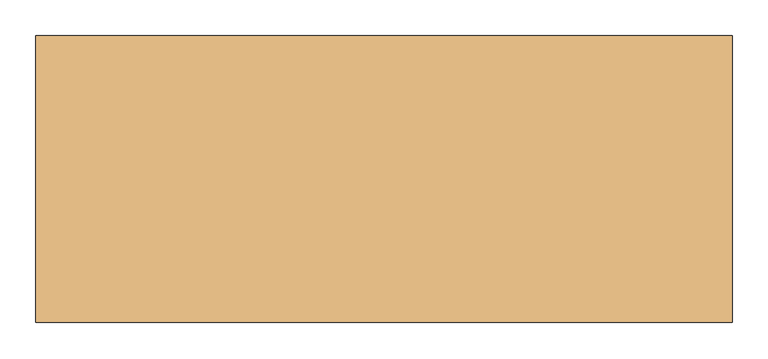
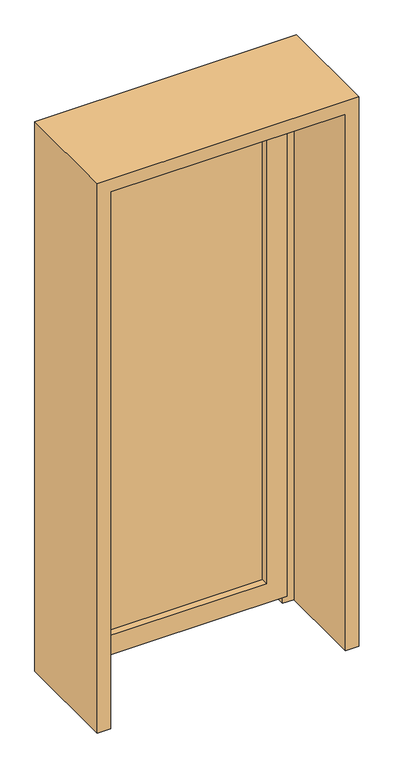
"""IFC4 building model written with IfcOpenShell, lengths in millimetres: door geometry, Внутренняя дверь 1-Навесная - 30970-2002 : ДПВ Г Б Л 2100-870 ГОСТ 30970-2002."""

from ifc_helpers import new_model, si_unit, frame, origin, place, context, project, spatial, polyline, outline, extrude, faceted_brep, source, transform, mapped, element, save


def door_53f747c6(model_context):
    return source(origin(), model_context, "Body", "SolidModel", [
        extrude(outline(polyline([(-338.0, 173.0), (338.0, 173.0), (338.0, 149.0), (-338.0, 149.0), (-338.0, 173.0)])), frame((0.0, 0.0, 97.0), z_axis=(0.0, 0.0, 1.0), x_axis=(1.0, 0.0, 0.0)), (0.0, 0.0, 1.0), 1906.0),
        faceted_brep([(-323.0, 149.0, 1988.0), (-323.0, 123.0, 1988.0), (-323.0, 123.0, 112.0), (-323.0, 149.0, 112.0), (-338.0, 173.0, 2003.0), (-338.0, 149.0, 2003.0), (-338.0, 149.0, 97.0), (-338.0, 173.0, 97.0), (-323.0, 193.0, 1988.0), (-323.0, 173.0, 1988.0), (-323.0, 173.0, 112.0), (-323.0, 193.0, 112.0), (-380.0, 137.0, 2045.0), (-380.0, 193.0, 2045.0), (-380.0, 193.0, 55.0), (-380.0, 137.0, 55.0), (-400.0, 123.0, 2065.0), (-400.0, 137.0, 2065.0), (-400.0, 137.0, 35.0), (-400.0, 123.0, 35.0), (323.0, 123.0, 112.0), (323.0, 149.0, 112.0), (338.0, 149.0, 97.0), (338.0, 173.0, 97.0), (323.0, 173.0, 112.0), (323.0, 193.0, 112.0), (380.0, 193.0, 55.0), (380.0, 137.0, 55.0), (400.0, 137.0, 35.0), (400.0, 123.0, 35.0), (323.0, 123.0, 1988.0), (323.0, 149.0, 1988.0), (338.0, 149.0, 2003.0), (338.0, 173.0, 2003.0), (323.0, 173.0, 1988.0), (323.0, 193.0, 1988.0), (380.0, 193.0, 2045.0), (380.0, 137.0, 2045.0), (400.0, 137.0, 2065.0), (400.0, 123.0, 2065.0)], [[[0, 1, 2, 3]], [[4, 5, 6, 7]], [[8, 9, 10, 11]], [[12, 13, 14, 15]], [[16, 17, 18, 19]], [[3, 2, 20, 21]], [[7, 6, 22, 23]], [[11, 10, 24, 25]], [[15, 14, 26, 27]], [[19, 18, 28, 29]], [[21, 20, 30, 31]], [[23, 22, 32, 33]], [[25, 24, 34, 35]], [[27, 26, 36, 37]], [[29, 28, 38, 39]], [[31, 30, 1, 0]], [[5, 32, 22, 6], [3, 21, 31, 0]], [[33, 32, 5, 4]], [[7, 23, 33, 4], [9, 34, 24, 10]], [[35, 34, 9, 8]], [[13, 36, 26, 14], [11, 25, 35, 8]], [[37, 36, 13, 12]], [[17, 38, 28, 18], [15, 27, 37, 12]], [[39, 38, 17, 16]], [[19, 29, 39, 16], [1, 30, 20, 2]]]),
        faceted_brep([(372.0, 209.0, 0.0), (435.0, 209.0, 0.0), (435.0, 139.0, 0.0), (392.0, 139.0, 0.0), (392.0, 195.0, 0.0), (372.0, 195.0, 0.0), (372.0, 209.0, 2037.0), (-372.0, 209.0, 2037.0), (-372.0, 209.0, 0.0), (-435.0, 209.0, 0.0), (-435.0, 209.0, 2100.0), (435.0, 209.0, 2100.0), (435.0, 139.0, 2100.0), (-435.0, 139.0, 2100.0), (-435.0, 139.0, 0.0), (-392.0, 139.0, 0.0), (-392.0, 139.0, 2057.0), (392.0, 139.0, 2057.0), (392.0, 195.0, 2057.0), (-392.0, 195.0, 2057.0), (-392.0, 195.0, 0.0), (-372.0, 195.0, 0.0), (-372.0, 195.0, 2037.0), (372.0, 195.0, 2037.0)], [[[0, 1, 2, 3, 4, 5]], [[1, 0, 6, 7, 8, 9, 10, 11]], [[2, 1, 11, 12]], [[3, 2, 12, 13, 14, 15, 16, 17]], [[4, 3, 17, 18]], [[5, 4, 18, 19, 20, 21, 22, 23]], [[0, 5, 23, 6]], [[7, 22, 21, 8]], [[8, 21, 20, 15, 14, 9]], [[13, 10, 9, 14]], [[19, 16, 15, 20]], [[12, 11, 10, 13]], [[18, 17, 16, 19]], [[6, 23, 22, 7]]]),
        extrude(outline(polyline([(0.0, 435.0), (0.0, 485.0), (2150.0, 485.0), (2150.0, -485.0), (0.0, -485.0), (0.0, -435.0), (2100.0, -435.0), (2100.0, 435.0), (0.0, 435.0)])), frame((0.0, -191.0, 0.0), z_axis=(0.0, 1.0, 0.0), x_axis=(0.0, 0.0, 1.0)), (0.0, 0.0, 1.0), 400.0),
    ])


if __name__ == "__main__":
    model = new_model("IFC4")
    model_context = context("Model", 3, world=origin())
    ifc_project = project(units=[si_unit("LENGTHUNIT", "METRE", prefix="MILLI")], contexts=[model_context])
    site = spatial("IfcSite", under=ifc_project)
    building = spatial("IfcBuilding", under=site)
    placement = place(None, origin())
    door_shape = door_53f747c6(model_context)
    element("IfcDoor", 1, ObjectType="Внутренняя дверь 1-Навесная - 30970-2002 : ДПВ Г Б Л 2100-870 ГОСТ 30970-2002", at=placement, inside=building, context=model_context, shape_type="MappedRepresentation", body=[
        mapped(door_shape, transform((0.0, 0.0, 0.0), x_axis=(1.0, 0.0, 0.0), y_axis=(0.0, 1.0, 0.0), z_axis=(0.0, 0.0, 1.0))),
    ])
    save(model, "model.ifc")
